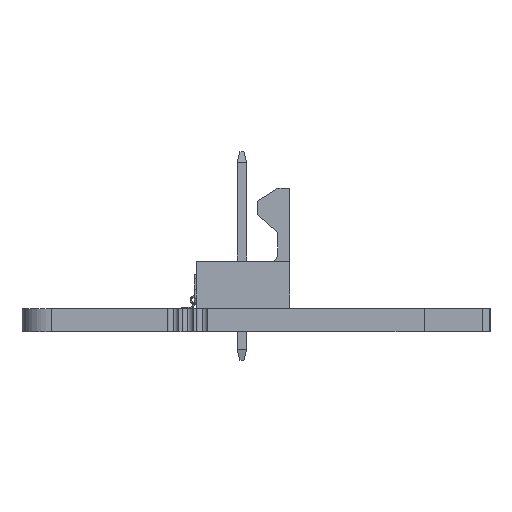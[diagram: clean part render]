
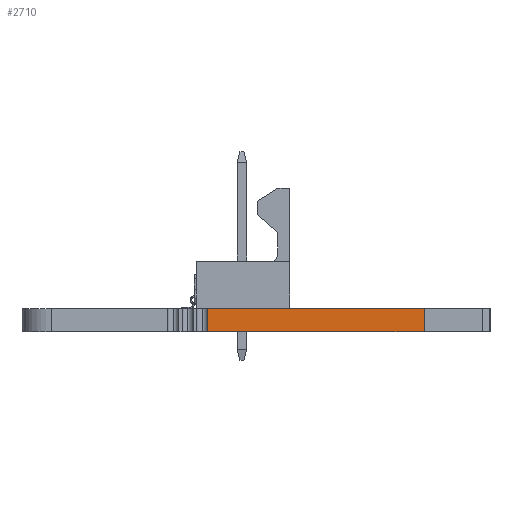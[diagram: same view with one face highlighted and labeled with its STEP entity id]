
A CAD part, left-side view. The second image highlights one B-rep face of the part: STEP entity #2710.
In plain terms, the highlighted planar face has unit normal (-1, 0, 0).
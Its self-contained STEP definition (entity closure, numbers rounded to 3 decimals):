
#2710=ADVANCED_FACE('',(#5523),#3968,.T.);
#3968=PLANE('',#36819);
#5523=FACE_OUTER_BOUND('',#7138,.T.);
#7138=EDGE_LOOP('',(#17213,#17214,#17215,#17216));
#17213=ORIENTED_EDGE('',*,*,#25728,.T.);
#17214=ORIENTED_EDGE('',*,*,#25729,.T.);
#17215=ORIENTED_EDGE('',*,*,#25725,.F.);
#17216=ORIENTED_EDGE('',*,*,#25730,.F.);
#20646=VERTEX_POINT('',#55735);
#20647=VERTEX_POINT('',#55736);
#20648=VERTEX_POINT('',#55741);
#20649=VERTEX_POINT('',#55742);
#25725=EDGE_CURVE('',#20646,#20647,#30143,.T.);
#25728=EDGE_CURVE('',#20648,#20649,#30144,.T.);
#25729=EDGE_CURVE('',#20649,#20647,#30145,.T.);
#25730=EDGE_CURVE('',#20648,#20646,#30146,.T.);
#30143=LINE('',#55734,#34557);
#30144=LINE('',#55740,#34558);
#30145=LINE('',#55743,#34559);
#30146=LINE('',#55744,#34560);
#34557=VECTOR('',#45721,1.);
#34558=VECTOR('',#45728,1.);
#34559=VECTOR('',#45729,1.);
#34560=VECTOR('',#45730,1.);
#36819=AXIS2_PLACEMENT_3D('',#55745,#45731,#45732);
#45721=DIRECTION('',(0.,0.,1.));
#45728=DIRECTION('',(0.,0.,1.));
#45729=DIRECTION('',(0.,1.,0.));
#45730=DIRECTION('',(0.,1.,0.));
#45731=DIRECTION('',(-1.,0.,0.));
#45732=DIRECTION('',(0.,-1.,0.));
#55734=CARTESIAN_POINT('',(-11.65,8.327,-1.596));
#55735=CARTESIAN_POINT('',(-11.65,8.327,-1.596));
#55736=CARTESIAN_POINT('',(-11.65,8.327,0.));
#55740=CARTESIAN_POINT('',(-11.65,-6.425,-1.596));
#55741=CARTESIAN_POINT('',(-11.65,-6.425,-1.596));
#55742=CARTESIAN_POINT('',(-11.65,-6.425,0.));
#55743=CARTESIAN_POINT('',(-11.65,-6.425,0.));
#55744=CARTESIAN_POINT('',(-11.65,-6.425,-1.596));
#55745=CARTESIAN_POINT('',(-11.65,-6.425,-1.596));
